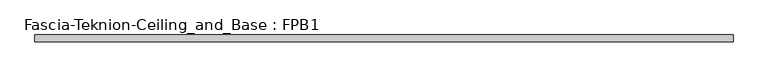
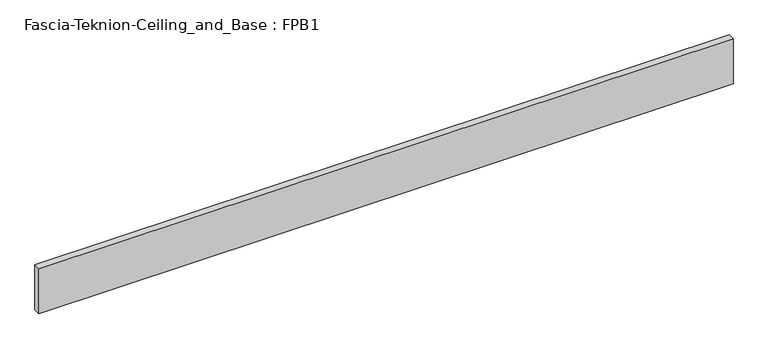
"""IFC4 building model written with IfcOpenShell, lengths in millimetres: proxy geometry, Fascia-Teknion-Ceiling_and_Base : FPB1."""

from ifc_helpers import new_model, si_unit, origin, origin_with_axes, place, context, project, spatial, polyline, outline, extrude, source, transform, mapped, element, save


def fascia_teknion_ceiling_and_base_fpb1_1e4a17ed(model_context):
    return source(origin(), model_context, "Body", "SweptSolid", [
        extrude(outline(polyline([(962.6147563, 0.0), (962.6147563, -19.05), (-962.6147562, -19.05), (-962.6147562, 0.0), (962.6147563, 0.0)])), origin_with_axes(), (0.0, 0.0, 1.0), 132.08),
    ])


if __name__ == "__main__":
    model = new_model("IFC4")
    model_context = context("Model", 3, world=origin())
    ifc_project = project(units=[si_unit("LENGTHUNIT", "METRE", prefix="MILLI")], contexts=[model_context])
    site = spatial("IfcSite", under=ifc_project)
    building = spatial("IfcBuilding", under=site)
    placement = place(None, origin())
    fascia_teknion_ceiling_and_base_fpb1_shape = fascia_teknion_ceiling_and_base_fpb1_1e4a17ed(model_context)
    element("IfcBuildingElementProxy", 1, Name="Fascia-Teknion-Ceiling_and_Base : FPB1", ObjectType="Fascia-Teknion-Ceiling_and_Base : FPB1", at=placement, inside=building, context=model_context, shape_type="MappedRepresentation", body=[
        mapped(fascia_teknion_ceiling_and_base_fpb1_shape, transform((0.0, 0.0, 0.0), x_axis=(1.0, 0.0, 0.0), y_axis=(0.0, 1.0, 0.0), z_axis=(0.0, 0.0, 1.0))),
    ])
    save(model, "model.ifc")
